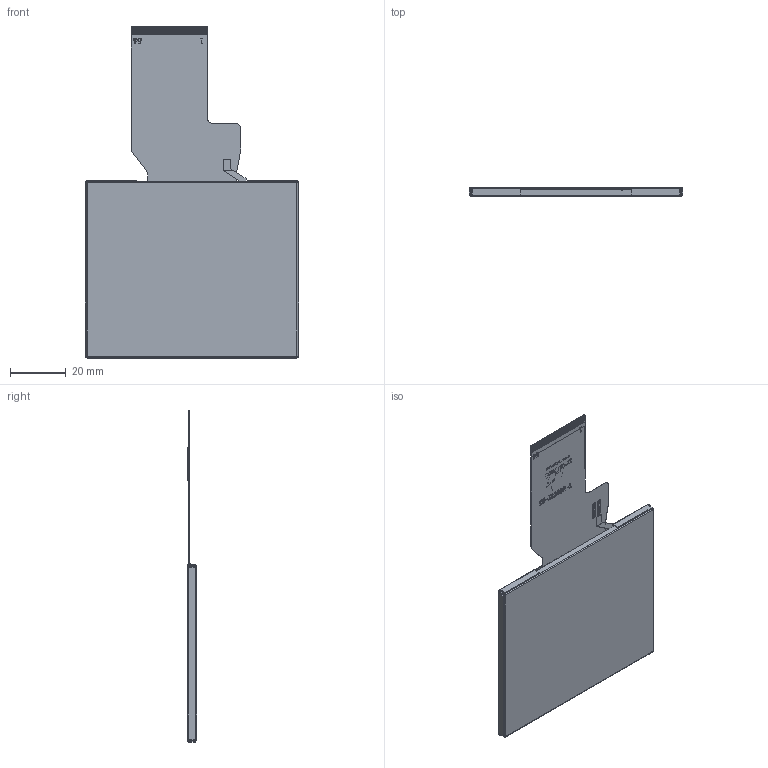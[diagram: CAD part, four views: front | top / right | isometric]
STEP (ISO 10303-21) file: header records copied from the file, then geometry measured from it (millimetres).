
FILE_DESCRIPTION (( 'STEP AP214' ), '1' );
FILE_NAME ('ER-TFT035-7.STEP', '2023-09-15T14:47:10', ( 'PC' ), ( 'Microsoft' ), 'SwSTEP 2.0', 'SolidWorks 2020', '' );
FILE_SCHEMA (( 'AUTOMOTIVE_DESIGN' ));
Length unit declared in the file: millimetre
Products named in the file (4): 4no_3ogo; FOG; ER-TFT035-7; 沺遺
Assembly tree (3 placements, depth 2):
  ER-TFT035-7
    沺遺
    FOG
    4no_3ogo
Bounding box: 76.84 x 3.33 x 119.56 mm (x, y, z)
Volume: 7679.3 mm3; surface area: 35061.8 mm2
Topology: 36 solids, 36 shells, 995 faces, 2687 edges, 1783 vertices
Faces by surface type: plane 697, bspline 261, cylinder 29, torus 4, sphere 4
Entity records: 48679 total; most frequent: CARTESIAN_POINT 19408, ORIENTED_EDGE 5366, DIRECTION 3703, EDGE_CURVE 2683, VECTOR 2099, LINE 2099, VERTEX_POINT 1783, EDGE_LOOP 1038
